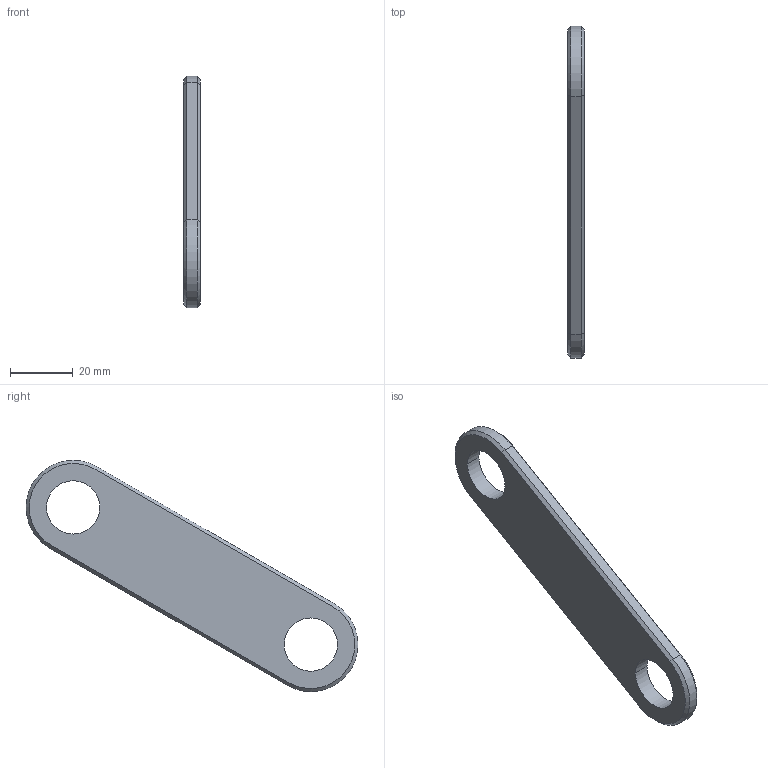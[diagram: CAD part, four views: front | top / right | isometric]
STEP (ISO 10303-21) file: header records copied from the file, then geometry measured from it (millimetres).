
FILE_DESCRIPTION(('CATIA V5 STEP Exchange','CAx-IF Rec.Pracs.--- Model Styling and Organization---1.2---2011-12-15'),'2;1');
FILE_NAME('X:\Projects\INTERIORS\VEMINA\IL-96-026_027\2.WORK_DATA\01.USERS\dmitriy.khorkov\02 OUT DATA\Пак 5_Листовые детали\STP\V.9626.7522.810.051-06.stp','2025-07-03T04:51:28+00:00',('none'),('none'),'CATIA Version 5-6 Release 2013 SP6 HF12','CATIA V5 STEP AP214','none');
FILE_SCHEMA(('AUTOMOTIVE_DESIGN { 1 0 10303 214 1 1 1 1 }'));
Length unit declared in the file: millimetre
Products named in the file (1): V.9626.7522.810.051-06
Bounding box: 5.2 x 105.77 x 73.74 mm (x, y, z)
Volume: 14696 mm3; surface area: 7392.4 mm2
Topology: 1 solids, 1 shells, 18 faces, 40 edges, 24 vertices
Faces by surface type: plane 8, cylinder 6, cone 4
Entity records: 499 total; most frequent: CARTESIAN_POINT 81, ORIENTED_EDGE 80, DIRECTION 72, EDGE_CURVE 40, AXIS2_PLACEMENT_3D 33, VECTOR 24, LINE 24, VERTEX_POINT 24
